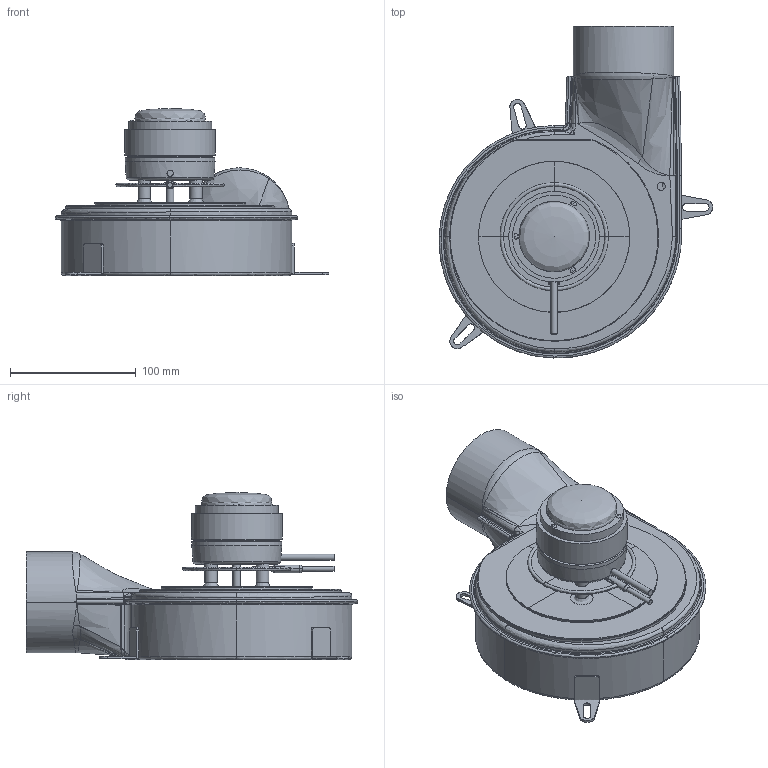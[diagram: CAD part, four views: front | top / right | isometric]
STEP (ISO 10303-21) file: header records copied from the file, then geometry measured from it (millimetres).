
FILE_DESCRIPTION(/* description */ (''),/* implementation_level */ '2;1');
FILE_NAME(/* name */ 'EF02-23F0-A2',/* time_stamp */ '2023-12-01T12:20:21+01:00',/* author */ (''),/* organization */ (''),/* preprocessor_version */ 'ST-DEVELOPER v16.5',/* originating_system */ 'Rhino 7.34',/* authorisation */ '');
FILE_SCHEMA (('AUTOMOTIVE_DESIGN'));
Length unit declared in the file: millimetre
Products named in the file (1): Document
Bounding box: 217.24 x 263.58 x 132.75 mm (x, y, z)
Volume: 249496.8 mm3; surface area: 310166.8 mm2
Topology: 9 solids, 19 shells, 493 faces, 1330 edges, 827 vertices
Faces by surface type: bspline 233, plane 141, cylinder 119
Full cylindrical faces by diameter (mm): 2.7 x4, 4 x1, 5 x1, 6 x1, 6.5 x1, 10 x8, 66 x2, 68 x1, 72 x1, 120 x1
Entity records: 52694 total; most frequent: CARTESIAN_POINT 44732, ORIENTED_EDGE 2506, EDGE_CURVE 1300, VERTEX_POINT 829, B_SPLINE_CURVE_WITH_KNOTS 714, EDGE_LOOP 540, ADVANCED_FACE 493, FACE_OUTER_BOUND 493
